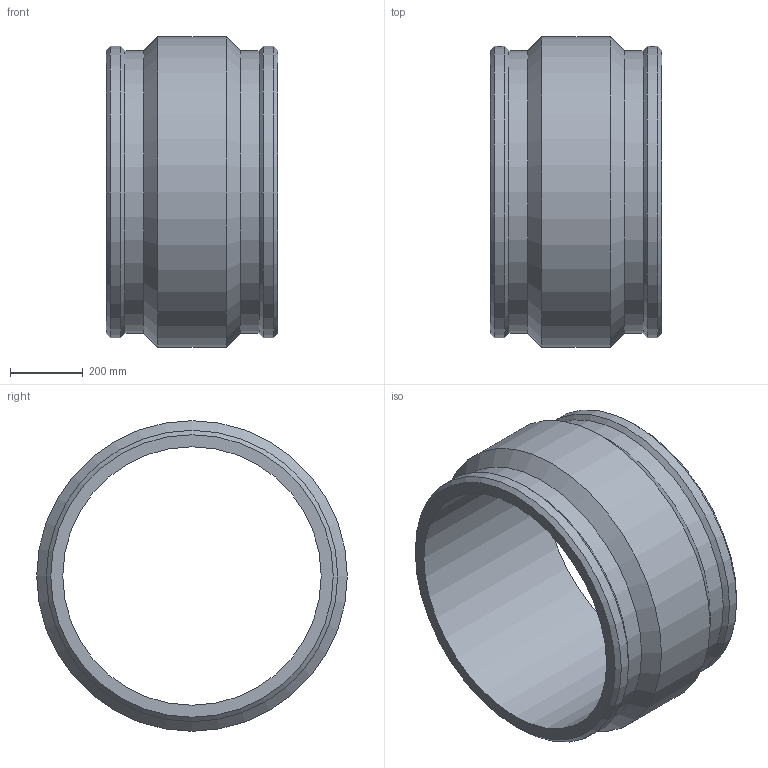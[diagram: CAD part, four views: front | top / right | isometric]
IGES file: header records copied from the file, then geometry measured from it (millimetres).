
Global section: file name: 490103710.ipt; native system: Autodesk Inventor 2015; preprocessor: unknown; author: KIM; date: 20190421.151310; units: millimetre
Bounding box: 472 x 853 x 853 mm (x, y, z)
Volume: 61056687.5 mm3; surface area: 2550543.1 mm2
Topology: 1 solids, 1 shells, 28 faces, 52 edges, 30 vertices
Faces by surface type: cylinder 11, plane 8, cone 6, revolution 3
Full cylindrical faces by diameter (mm): 4 x2, 776 x2, 800 x2, 853 x1
